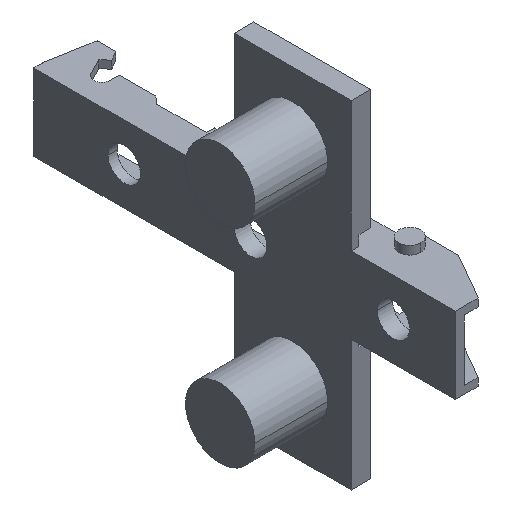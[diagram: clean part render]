
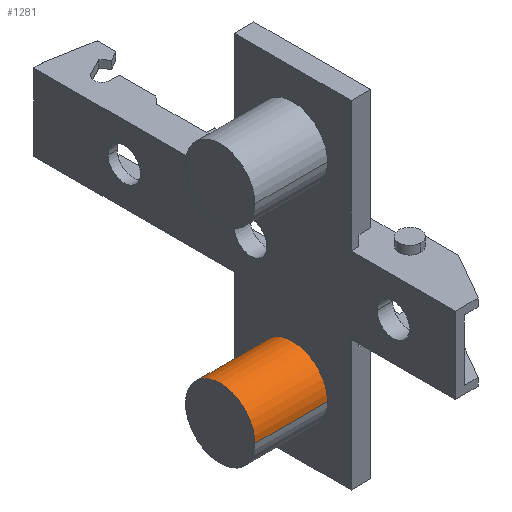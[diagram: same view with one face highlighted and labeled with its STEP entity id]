
A CAD part, isometric view. The second image highlights one B-rep face of the part: STEP entity #1281.
In plain terms, the highlighted cylindrical face has radius 5.35 mm (diameter 10.7 mm), a partial arc.
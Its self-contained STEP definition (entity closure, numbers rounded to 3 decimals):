
#11 = DIRECTION ( 'NONE',  ( 1., 0., 0. ) ) ;
#46 = CARTESIAN_POINT ( 'NONE',  ( -11.2, 5.35, -16. ) ) ;
#86 = DIRECTION ( 'NONE',  ( 0., -1., 0. ) ) ;
#87 = DIRECTION ( 'NONE',  ( 1., 0., 0. ) ) ;
#135 = VERTEX_POINT ( 'NONE', #434 ) ;
#162 = VERTEX_POINT ( 'NONE', #429 ) ;
#268 = VERTEX_POINT ( 'NONE', #419 ) ;
#271 = VERTEX_POINT ( 'NONE', #418 ) ;
#418 = CARTESIAN_POINT ( 'NONE',  ( 0., 5.35, -16. ) ) ;
#419 = CARTESIAN_POINT ( 'NONE',  ( -11.2, -5.35, -16. ) ) ;
#429 = CARTESIAN_POINT ( 'NONE',  ( 0., -5.35, -16. ) ) ;
#434 = CARTESIAN_POINT ( 'NONE',  ( -11.2, 5.35, -16. ) ) ;
#523 = CARTESIAN_POINT ( 'NONE',  ( -11.2, 0., -16. ) ) ;
#955 = CARTESIAN_POINT ( 'NONE',  ( -11.2, -5.35, -16. ) ) ;
#1063 = CARTESIAN_POINT ( 'NONE',  ( -11.2, 0., -16. ) ) ;
#1064 = DIRECTION ( 'NONE',  ( -1., 0., 0. ) ) ;
#1066 = DIRECTION ( 'NONE',  ( 0., 1., 0. ) ) ;
#1150 = DIRECTION ( 'NONE',  ( 1., 0., 0. ) ) ;
#1281 = ADVANCED_FACE ( 'NONE', ( #1857 ), #1903, .T. ) ;
#1409 = CARTESIAN_POINT ( 'NONE',  ( 0., 0., -16. ) ) ;
#1431 = DIRECTION ( 'NONE',  ( -1., 0., 0. ) ) ;
#1433 = DIRECTION ( 'NONE',  ( 0., 1., 0. ) ) ;
#1857 = FACE_OUTER_BOUND ( 'NONE', #2114, .T. ) ;
#1864 = ORIENTED_EDGE ( 'NONE', *, *, #2968, .T. ) ;
#1903 = CYLINDRICAL_SURFACE ( 'NONE', #2994, 5.35 ) ;
#1954 = ORIENTED_EDGE ( 'NONE', *, *, #2759, .F. ) ;
#1996 = ORIENTED_EDGE ( 'NONE', *, *, #2993, .F. ) ;
#1998 = ORIENTED_EDGE ( 'NONE', *, *, #3170, .T. ) ;
#2114 = EDGE_LOOP ( 'NONE', ( #1996, #1954, #1864, #1998 ) ) ;
#2309 = VECTOR ( 'NONE', #11, 1000. ) ;
#2310 = LINE ( 'NONE', #46, #2309 ) ;
#2341 = VECTOR ( 'NONE', #1150, 1000. ) ;
#2363 = LINE ( 'NONE', #955, #2341 ) ;
#2574 = CIRCLE ( 'NONE', #3152, 5.35 ) ;
#2734 = CIRCLE ( 'NONE', #3030, 5.35 ) ;
#2759 = EDGE_CURVE ( 'NONE', #268, #135, #2574, .T. ) ;
#2968 = EDGE_CURVE ( 'NONE', #268, #162, #2363, .T. ) ;
#2993 = EDGE_CURVE ( 'NONE', #135, #271, #2310, .T. ) ;
#2994 = AXIS2_PLACEMENT_3D ( 'NONE', #523, #87, #86 ) ;
#3030 = AXIS2_PLACEMENT_3D ( 'NONE', #1409, #1431, #1433 ) ;
#3152 = AXIS2_PLACEMENT_3D ( 'NONE', #1063, #1064, #1066 ) ;
#3170 = EDGE_CURVE ( 'NONE', #162, #271, #2734, .T. ) ;
